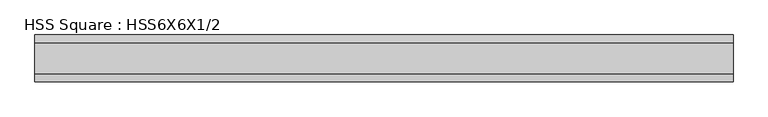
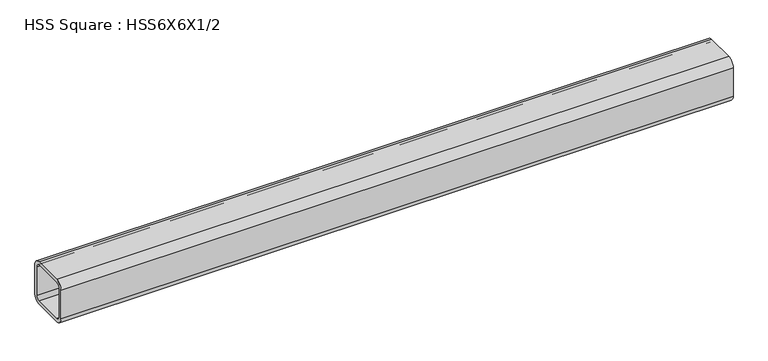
"""IFC4 building model written with IfcOpenShell, lengths in millimetres: beam geometry, HSS Square : HSS6X6X1/2."""

from ifc_helpers import new_model, si_unit, point, frame, frame_2d, origin, place, context, project, spatial, polyline, circle_curve, trimmed, segment, composite_curve, outline, extrude, source, transform, mapped, element, save


def hss_square_hss6x6x1_2_b0b0a80a(model_context):
    return source(origin(), model_context, "Body", "SweptSolid", [
        extrude(outline(composite_curve([segment(polyline([(76.2, 50.8), (76.2, -50.8)]), True, "CONTINUOUS"), segment(trimmed(circle_curve(frame_2d((50.8, -50.8)), 25.4), [point((76.2, -50.8))], [point((50.8, -76.2))], False, "CARTESIAN"), True, "CONTINUOUS"), segment(polyline([(50.8, -76.2), (-50.8, -76.2)]), True, "CONTINUOUS"), segment(trimmed(circle_curve(frame_2d((-50.8, -50.8)), 25.4), [point((-50.8, -76.2))], [point((-76.2, -50.8))], False, "CARTESIAN"), True, "CONTINUOUS"), segment(polyline([(-76.2, -50.8), (-76.2, 50.8)]), True, "CONTINUOUS"), segment(trimmed(circle_curve(frame_2d((-50.8, 50.8)), 25.4), [point((-76.2, 50.8))], [point((-50.8, 76.2))], False, "CARTESIAN"), True, "CONTINUOUS"), segment(polyline([(-50.8, 76.2), (50.8, 76.2)]), True, "CONTINUOUS"), segment(trimmed(circle_curve(frame_2d((50.8, 50.8)), 25.4), [point((50.8, 76.2))], [point((76.2, 50.8))], False, "CARTESIAN"), True, "CONTINUOUS")], self_intersect=False), holes=[composite_curve([segment(trimmed(circle_curve(frame_2d((-50.8, 50.8)), 12.7), [point((-50.8, 63.5))], [point((-63.5, 50.8))], True, "CARTESIAN"), True, "CONTINUOUS"), segment(polyline([(-63.5, 50.8), (-63.5, -50.8)]), True, "CONTINUOUS"), segment(trimmed(circle_curve(frame_2d((-50.8, -50.8)), 12.7), [point((-63.5, -50.8))], [point((-50.8, -63.5))], True, "CARTESIAN"), True, "CONTINUOUS"), segment(polyline([(-50.8, -63.5), (50.8, -63.5)]), True, "CONTINUOUS"), segment(trimmed(circle_curve(frame_2d((50.8, -50.8)), 12.7), [point((50.8, -63.5))], [point((63.5, -50.8))], True, "CARTESIAN"), True, "CONTINUOUS"), segment(polyline([(63.5, -50.8), (63.5, 50.8)]), True, "CONTINUOUS"), segment(trimmed(circle_curve(frame_2d((50.8, 50.8)), 12.7), [point((63.5, 50.8))], [point((50.8, 63.5))], True, "CARTESIAN"), True, "CONTINUOUS"), segment(polyline([(50.8, 63.5), (-50.8, 63.5)]), True, "CONTINUOUS")], self_intersect=False)]), frame((-1130.0517188, 0.0, 0.0), z_axis=(1.0, 0.0, 0.0), x_axis=(0.0, 1.0, 0.0)), (0.0, 0.0, 1.0), 2277.2616038),
    ])


if __name__ == "__main__":
    model = new_model("IFC4")
    model_context = context("Model", 3, world=origin())
    ifc_project = project(units=[si_unit("LENGTHUNIT", "METRE", prefix="MILLI")], contexts=[model_context])
    site = spatial("IfcSite", under=ifc_project)
    building = spatial("IfcBuilding", under=site)
    placement = place(None, origin())
    hss_square_hss6x6x1_2_shape = hss_square_hss6x6x1_2_b0b0a80a(model_context)
    element("IfcBeam", 1, ObjectType="HSS Square : HSS6X6X1/2", at=placement, inside=building, context=model_context, shape_type="MappedRepresentation", body=[
        mapped(hss_square_hss6x6x1_2_shape, transform((0.0, 0.0, 0.0), x_axis=(1.0, 0.0, 0.0), y_axis=(0.0, 1.0, 0.0), z_axis=(0.0, 0.0, 1.0))),
    ])
    save(model, "model.ifc")
